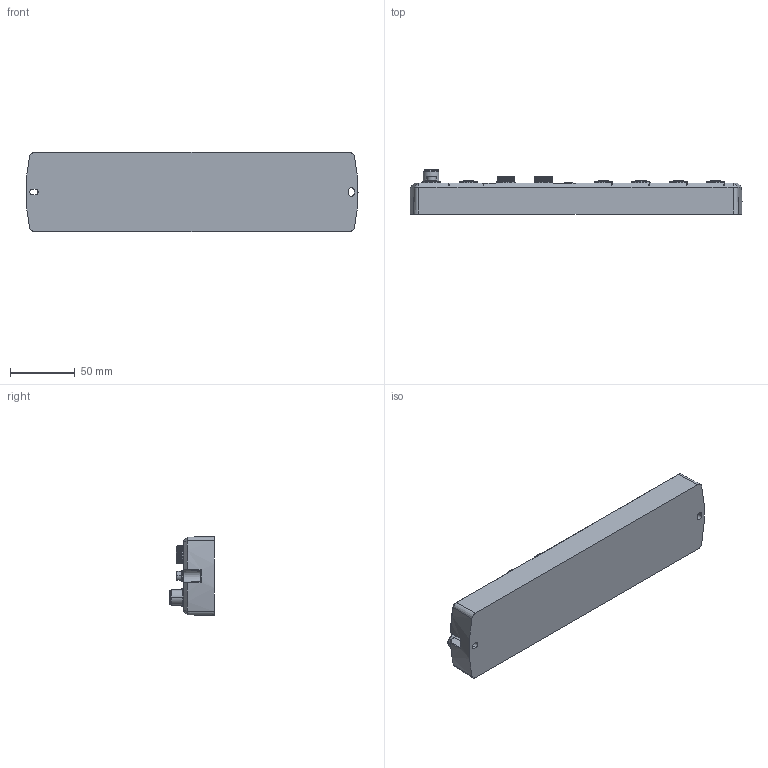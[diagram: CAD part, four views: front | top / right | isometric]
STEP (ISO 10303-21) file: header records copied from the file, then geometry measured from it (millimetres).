
FILE_DESCRIPTION((''),'2;1');
FILE_NAME('2030432','2021-02-05T12:16:48',('m.cech'),(''),'CREO PARAMETRIC BY PTC INC, 2019292','CREO PARAMETRIC BY PTC INC, 2019292','');
FILE_SCHEMA(('AUTOMOTIVE_DESIGN { 1 0 10303 214 1 1 1 1 }'));
Length unit declared in the file: millimetre
Products named in the file (1): 2030432
Bounding box: 257.22 x 34.5 x 61.26 mm (x, y, z)
Volume: 364873.8 mm3; surface area: 54952.7 mm2
Topology: 4 solids, 6 shells, 2584 faces, 7101 edges, 4767 vertices
Faces by surface type: plane 1111, cylinder 924, extrusion 307, torus 105, cone 81, sphere 36, bspline 20
Entity records: 125515 total; most frequent: CARTESIAN_POINT 23231, ORIENTED_EDGE 14142, DIRECTION 13520, PRESENTATION_STYLE_ASSIGNMENT 8983, STYLED_ITEM 7138, CURVE_STYLE 7133, EDGE_CURVE 7071, AXIS2_PLACEMENT_3D 5007
